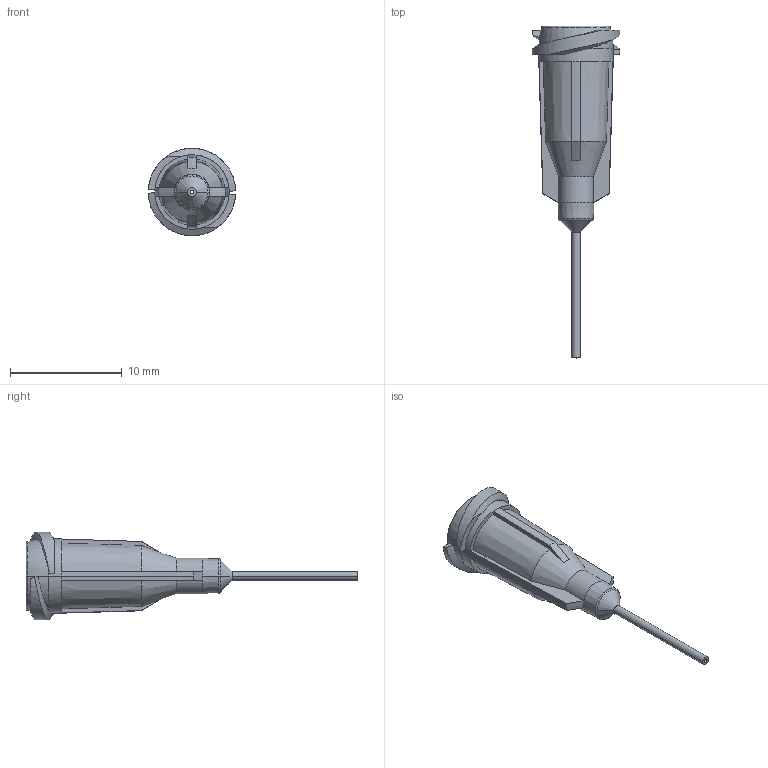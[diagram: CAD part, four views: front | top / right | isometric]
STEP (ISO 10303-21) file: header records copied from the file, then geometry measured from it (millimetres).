
FILE_DESCRIPTION (( 'STEP AP214' ), '1' );
FILE_NAME ('NORDSONEFD-7018365 TIP 25GA PPS 014 X 1-2 RD.STEP', '2019-01-15T09:12:50', ( '' ), ( '' ), 'SwSTEP 2.0', 'SolidWorks 2018', '' );
FILE_SCHEMA (( 'AUTOMOTIVE_DESIGN' ));
Length unit declared in the file: inch
Products named in the file (1): NORDSONEFD-7018365 TIP 25GA PPS 014 X 1-2 RD
Bounding box: 7.82 x 29.69 x 7.82 mm (x, y, z)
Volume: 267.6 mm3; surface area: 581.9 mm2
Topology: 1 solids, 1 shells, 106 faces, 244 edges, 144 vertices
Faces by surface type: torus 28, plane 26, cone 24, cylinder 16, bspline 12
Entity records: 3487 total; most frequent: CARTESIAN_POINT 1029, DIRECTION 506, ORIENTED_EDGE 488, EDGE_CURVE 244, AXIS2_PLACEMENT_3D 223, VERTEX_POINT 144, CIRCLE 128, EDGE_LOOP 112
